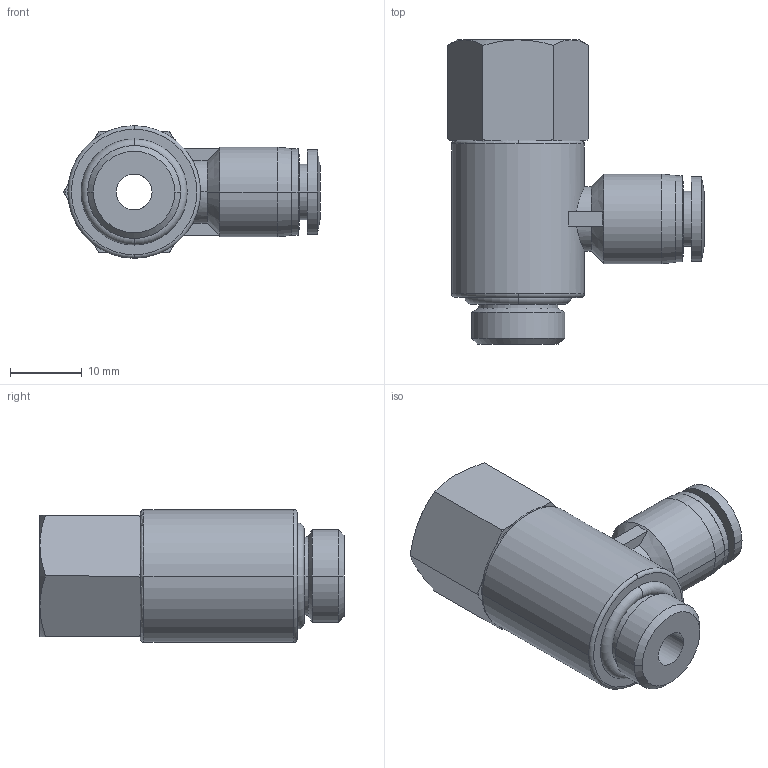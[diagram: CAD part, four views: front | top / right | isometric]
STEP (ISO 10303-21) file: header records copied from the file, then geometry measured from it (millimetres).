
FILE_DESCRIPTION (( 'STEP AP203' ), '1' );
FILE_NAME ('FVF06-02.STEP', '2020-05-11T14:28:47', ( '' ), ( '' ), 'SwSTEP 2.0', 'SolidWorks 2019', '' );
FILE_SCHEMA (( 'CONFIG_CONTROL_DESIGN' ));
Length unit declared in the file: millimetre
Products named in the file (1): FVF06-02
Bounding box: 35.77 x 42.4 x 18.5 mm (x, y, z)
Volume: 9211 mm3; surface area: 5114.5 mm2
Topology: 1 solids, 1 shells, 92 faces, 219 edges, 134 vertices
Faces by surface type: plane 33, cone 26, cylinder 25, torus 6, bspline 2
Entity records: 2884 total; most frequent: CARTESIAN_POINT 708, DIRECTION 467, ORIENTED_EDGE 438, EDGE_CURVE 219, AXIS2_PLACEMENT_3D 197, VERTEX_POINT 134, CIRCLE 106, EDGE_LOOP 101
